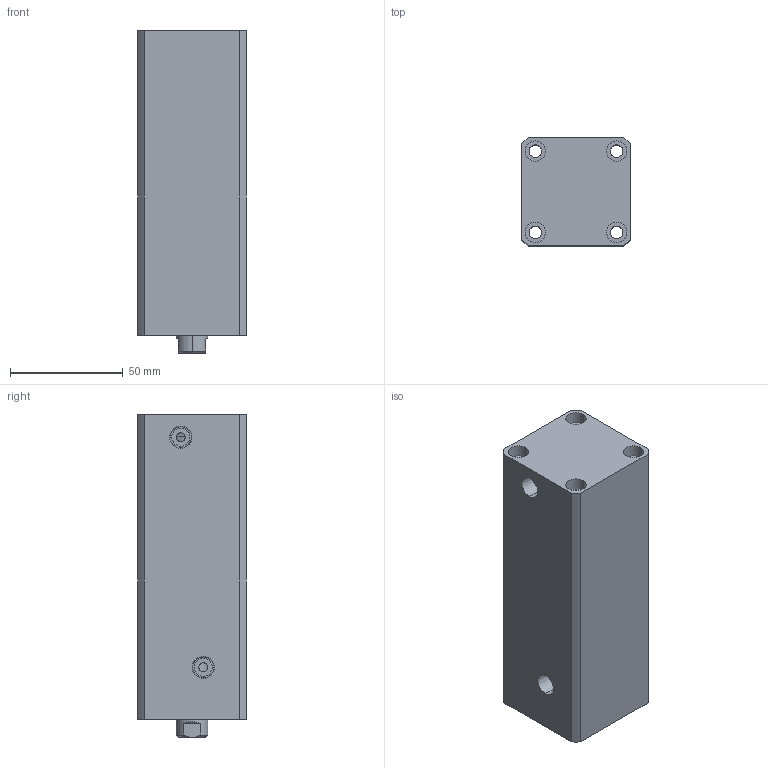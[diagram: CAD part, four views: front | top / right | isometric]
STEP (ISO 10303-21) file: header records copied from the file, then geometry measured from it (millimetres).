
FILE_DESCRIPTION (( 'STEP AP214' ), '1' );
FILE_NAME ('chtb-sd25x90n_asm.STEP', '2018-05-22T12:47:38', ( 'Windows' ), ( 'Microsoft' ), 'SwSTEP 2.0', 'SolidWorks 2015', '' );
FILE_SCHEMA (( 'AUTOMOTIVE_DESIGN' ));
Length unit declared in the file: millimetre
Products named in the file (4): CHTB-SD25X90NHSG; CHTB-SD25X90NBT; CHTB-25QG; chtb-sd25x90n_asm
Assembly tree (3 placements, depth 2):
  chtb-sd25x90n_asm
    CHTB-25QG
    CHTB-SD25X90NBT
    CHTB-SD25X90NHSG
Bounding box: 48 x 48 x 143 mm (x, y, z)
Volume: 261072.8 mm3; surface area: 63796.7 mm2
Topology: 3 solids, 3 shells, 144 faces, 377 edges, 257 vertices
Faces by surface type: cylinder 85, plane 36, cone 13, bspline 10
Entity records: 7940 total; most frequent: CARTESIAN_POINT 4299, ORIENTED_EDGE 742, DIRECTION 671, EDGE_CURVE 371, AXIS2_PLACEMENT_3D 278, VERTEX_POINT 257, EDGE_LOOP 182, FACE_OUTER_BOUND 144
